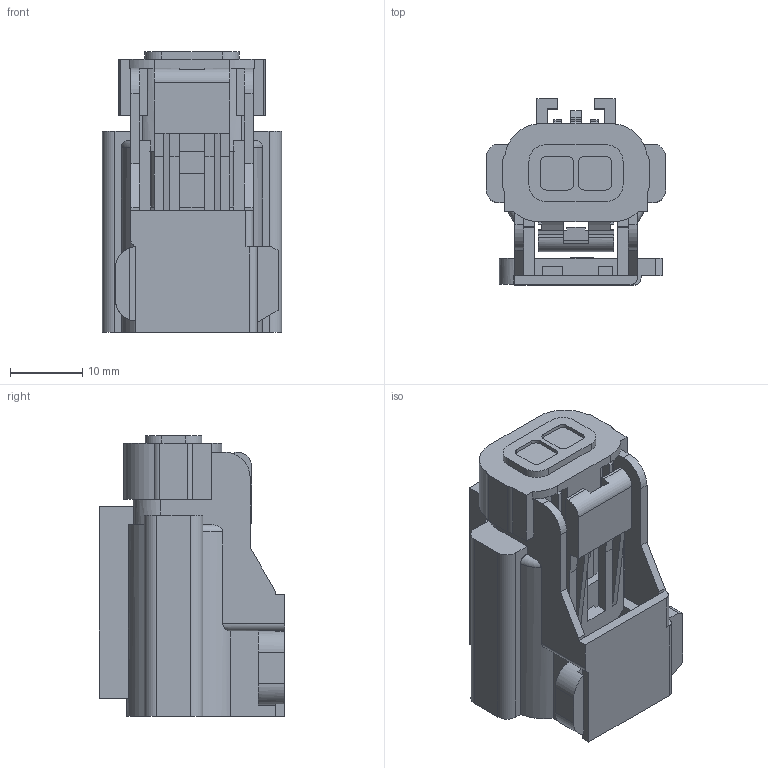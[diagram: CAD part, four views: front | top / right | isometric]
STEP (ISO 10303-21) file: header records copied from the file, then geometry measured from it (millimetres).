
FILE_DESCRIPTION(/* description */ (''),/* implementation_level */ '2;1');
FILE_NAME(/* name */ '10757672-STEP-3D.stp',/* time_stamp */ '2021-06-14T12:57:49+05:00',/* author */ (''),/* organization */ (''),/* preprocessor_version */ 'ST-DEVELOPER v16.7',/* originating_system */ 'SIEMENS PLM Software NX 12.0',/* authorisation */ '');
FILE_SCHEMA (('AUTOMOTIVE_DESIGN { 1 0 10303 214 3 1 1 1 }'));
Length unit declared in the file: millimetre
Products named in the file (1): cjzt2ACC5D4Dohto
Bounding box: 24.8 x 25.71 x 38.8 mm (x, y, z)
Volume: 9292.6 mm3; surface area: 8513.5 mm2
Topology: 1 solids, 1 shells, 345 faces, 990 edges, 644 vertices
Faces by surface type: plane 278, cylinder 61, cone 4, torus 2
Entity records: 11238 total; most frequent: CARTESIAN_POINT 2051, ORIENTED_EDGE 1980, DIRECTION 1824, EDGE_CURVE 990, LINE 834, VECTOR 834, VERTEX_POINT 644, AXIS2_PLACEMENT_3D 495
